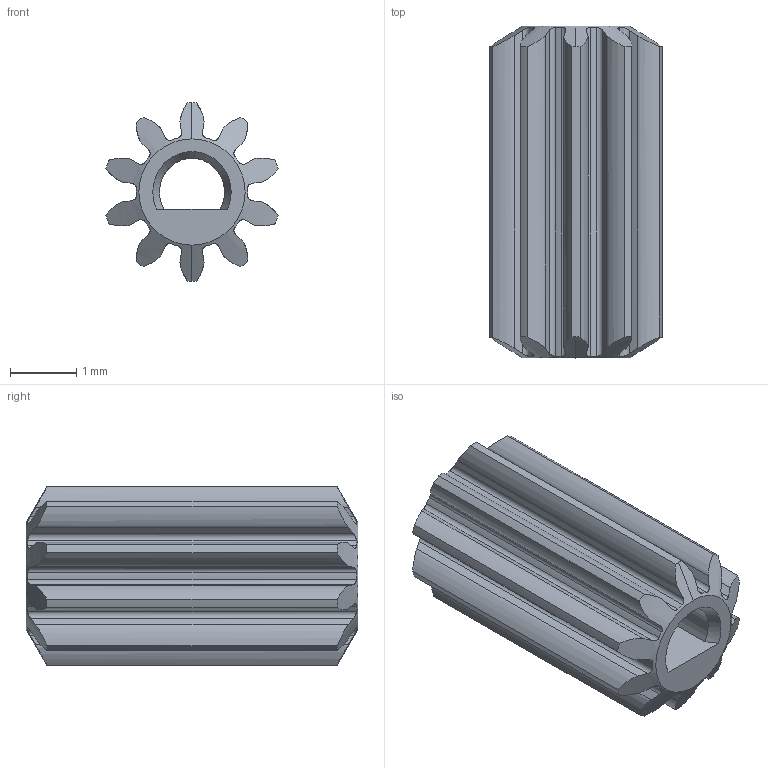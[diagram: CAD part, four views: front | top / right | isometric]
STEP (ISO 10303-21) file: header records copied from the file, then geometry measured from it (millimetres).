
FILE_DESCRIPTION (( 'STEP AP214' ), '1' );
FILE_NAME ('TRL-0037-A.STEP', '2021-06-25T18:39:38', ( '' ), ( '' ), 'SwSTEP 2.0', 'SolidWorks 2016', '' );
FILE_SCHEMA (( 'AUTOMOTIVE_DESIGN' ));
Length unit declared in the file: millimetre
Products named in the file (1): TRL-0037-A
Bounding box: 2.59 x 5 x 2.69 mm (x, y, z)
Volume: 15 mm3; surface area: 86.7 mm2
Topology: 1 solids, 1 shells, 91 faces, 265 edges, 176 vertices
Faces by surface type: cylinder 41, plane 23, bspline 23, cone 4
Entity records: 5366 total; most frequent: CARTESIAN_POINT 3118, ORIENTED_EDGE 530, DIRECTION 363, EDGE_CURVE 265, VERTEX_POINT 176, LINE 129, VECTOR 129, AXIS2_PLACEMENT_3D 117
